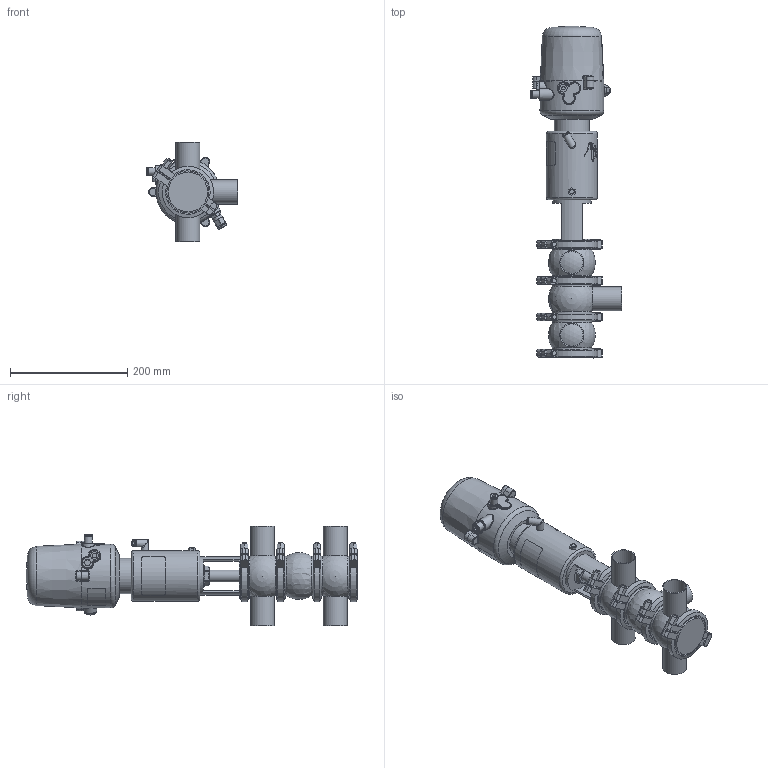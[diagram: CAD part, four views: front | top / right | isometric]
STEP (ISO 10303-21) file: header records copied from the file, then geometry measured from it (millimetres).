
FILE_DESCRIPTION (( 'STEP AP214' ), '1' );
FILE_NAME ('INNOVA L W W DIN 040 T1 AS NC & C-TOP S_10.241.16.0064.STEP', '2024-08-06T12:20:18', ( '' ), ( '' ), 'SwSTEP 2.0', 'SolidWorks 2023', '' );
FILE_SCHEMA (( 'AUTOMOTIVE_DESIGN' ));
Length unit declared in the file: millimetre
Products named in the file (9): 10.426.15.0001_C-TOP S - 1 EV; 10.241.15.0001_DIN 040; 10.240.15.0007_DIN 040; 10.240.15.0017_Estàndard; 10.240.15.0001_DN 040; 10.240.15.0014_T1 AS P180; INNOVA L W W DIN 040 T1 AS NC & C-TOP S_10.241.16.0064; 10.240.15.0006_DIN 040; 10.240.15.0010_DN 040
Assembly tree (12 placements, depth 2):
  INNOVA L W W DIN 040 T1 AS NC & C-TOP S_10.241.16.0064
    10.240.15.0007_DIN 040  x2
    10.240.15.0006_DIN 040
    10.240.15.0010_DN 040
    10.240.15.0014_T1 AS P180
    10.240.15.0017_Estàndard
    10.426.15.0001_C-TOP S - 1 EV
    10.240.15.0001_DN 040  x4
    10.241.15.0001_DIN 040
Bounding box: 156 x 567.07 x 170 mm (x, y, z)
Volume: 3260517.8 mm3; surface area: 384950 mm2
Topology: 13 solids, 13 shells, 1315 faces, 3197 edges, 2121 vertices
Faces by surface type: plane 479, cylinder 407, cone 221, bspline 160, torus 36, sphere 12
Full cylindrical faces by diameter (mm): 0.371 x17, 0.512 x16, 0.658 x16, 0.795 x16, 0.94 x15, 1.098 x15, 1.241 x13, 1.382 x13, 1.523 x11, 1.669 x10, 2.201 x1, 4 x2, 5.5 x2, 6 x2, 6.15 x1, 8 x10, 8.5 x1, 10 x1, 10.5 x1, 11 x2, 12.5 x3, 13 x2, 13.5 x2, 16 x1, 17 x3, 20 x3, 20.5 x1, 22 x2, 31 x1, 34.5 x3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
Entity records: 57023 total; most frequent: CARTESIAN_POINT 26677, ORIENTED_EDGE 4516, DIRECTION 3677, EDGE_CURVE 2258, VERTEX_POINT 1609, EDGE_LOOP 1579, AXIS2_PLACEMENT_3D 1510, FACE_OUTER_BOUND 1339
